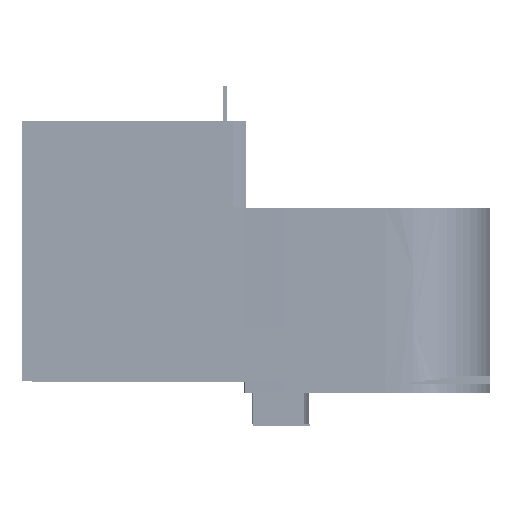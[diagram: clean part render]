
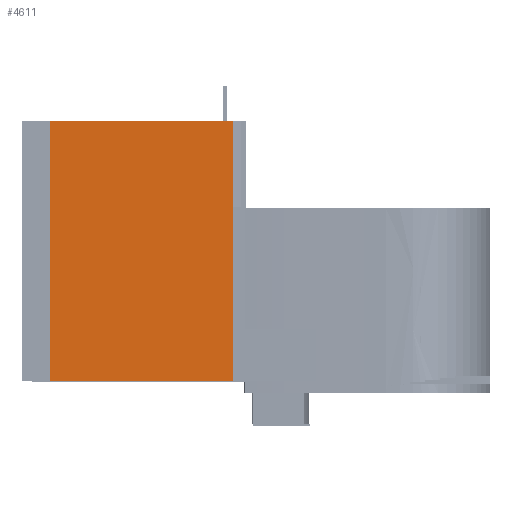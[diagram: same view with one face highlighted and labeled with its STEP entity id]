
A CAD part, left-side view. The second image highlights one B-rep face of the part: STEP entity #4611.
In plain terms, the highlighted free-form (B-spline) face has degree [1, 1] with [2, 2] control points.
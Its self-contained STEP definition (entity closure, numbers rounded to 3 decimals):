
#4556 = CARTESIAN_POINT ('', (-10104.333, 8810.521, 0.));
#4557 = VERTEX_POINT ('', #4556);
#4563 = CARTESIAN_POINT ('', (-10104.333, 8810.521, 15000.));
#4564 = VERTEX_POINT ('', #4563);
#4565 = CARTESIAN_POINT ('', (-10104.333, 8810.521, 0.));
#4566 = CARTESIAN_POINT ('', (-10104.333, 8810.521, 15000.));
#4567 = B_SPLINE_CURVE_WITH_KNOTS ('', 1, (#4565, #4566), .UNSPECIFIED., .F., .U., (2, 2), (0., 1.), .UNSPECIFIED.);
#4568 = EDGE_CURVE ('', #4557, #4564, #4567, .T.);
#4584 = CARTESIAN_POINT ('', (-10104.333, -1711.897, 0.));
#4585 = VERTEX_POINT ('', #4584);
#4586 = CARTESIAN_POINT ('', (-10104.333, -1711.897, 0.));
#4587 = CARTESIAN_POINT ('', (-10104.333, 8810.521, 0.));
#4588 = B_SPLINE_CURVE_WITH_KNOTS ('', 1, (#4586, #4587), .UNSPECIFIED., .F., .U., (2, 2), (0., 1.), .UNSPECIFIED.);
#4589 = EDGE_CURVE ('', #4585, #4557, #4588, .T.);
#4590 = ORIENTED_EDGE ('', *, *, #4589, .F.);
#4591 = CARTESIAN_POINT ('', (-10104.333, -1711.897, 15000.));
#4592 = VERTEX_POINT ('', #4591);
#4593 = CARTESIAN_POINT ('', (-10104.333, -1711.897, 0.));
#4594 = CARTESIAN_POINT ('', (-10104.333, -1711.897, 15000.));
#4595 = B_SPLINE_CURVE_WITH_KNOTS ('', 1, (#4593, #4594), .UNSPECIFIED., .F., .U., (2, 2), (0., 1.), .UNSPECIFIED.);
#4596 = EDGE_CURVE ('', #4585, #4592, #4595, .T.);
#4597 = ORIENTED_EDGE ('', *, *, #4596, .T.);
#4598 = CARTESIAN_POINT ('', (-10104.333, 8810.521, 15000.));
#4599 = CARTESIAN_POINT ('', (-10104.333, -1711.897, 15000.));
#4600 = B_SPLINE_CURVE_WITH_KNOTS ('', 1, (#4598, #4599), .UNSPECIFIED., .F., .U., (2, 2), (0., 1.), .UNSPECIFIED.);
#4601 = EDGE_CURVE ('', #4564, #4592, #4600, .T.);
#4602 = ORIENTED_EDGE ('', *, *, #4601, .F.);
#4603 = ORIENTED_EDGE ('', *, *, #4568, .F.);
#4604 = EDGE_LOOP ('', (#4590, #4597, #4602, #4603));
#4605 = FACE_OUTER_BOUND ('', #4604, .T.);
#4606 = CARTESIAN_POINT ('', (-10104.333, -1711.897, 0.));
#4607 = CARTESIAN_POINT ('', (-10104.333, 8810.521, 0.));
#4608 = CARTESIAN_POINT ('', (-10104.333, -1711.897, 15000.));
#4609 = CARTESIAN_POINT ('', (-10104.333, 8810.521, 15000.));
#4610 = B_SPLINE_SURFACE_WITH_KNOTS ('', 1, 1, ((#4606, #4607), (#4608, #4609)), .UNSPECIFIED., .F., .F., .U., (2, 2), (2, 2), (0., 1.), (0., 1.), .UNSPECIFIED.);
#4611 = ADVANCED_FACE ('', (#4605), #4610, .T.);
